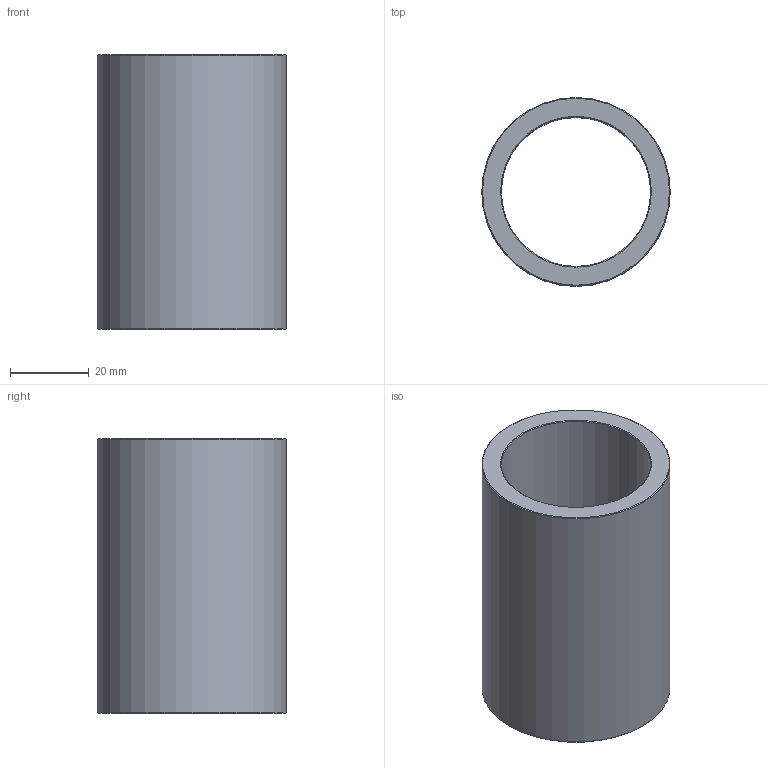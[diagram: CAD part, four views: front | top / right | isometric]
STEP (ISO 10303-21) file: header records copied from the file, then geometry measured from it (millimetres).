
FILE_DESCRIPTION(('STEP AP203'),'1');
FILE_NAME('C:/Users/Rodrigo/Desktop/GA5.038.070-1.step','2016-11-07T18:01:14',(' '),(' '),'Spatial InterOp 3D',' ',' ');
FILE_SCHEMA(('CONFIG_CONTROL_DESIGN'));
Length unit declared in the file: millimetre
Products named in the file (1): 1
Bounding box: 48 x 48 x 70 mm (x, y, z)
Volume: 47270.2 mm3; surface area: 20200 mm2
Topology: 1 solids, 1 shells, 8 faces, 14 edges, 8 vertices
Faces by surface type: cone 4, cylinder 2, plane 2
Full cylindrical faces by diameter (mm): 38 x1, 48 x1
Entity records: 212 total; most frequent: DIRECTION 34, CARTESIAN_POINT 25, AXIS2_PLACEMENT_3D 17, EDGE_LOOP 16, ORIENTED_EDGE 16, FACE_OUTER_BOUND 10, ADVANCED_FACE 8, EDGE_CURVE 8
